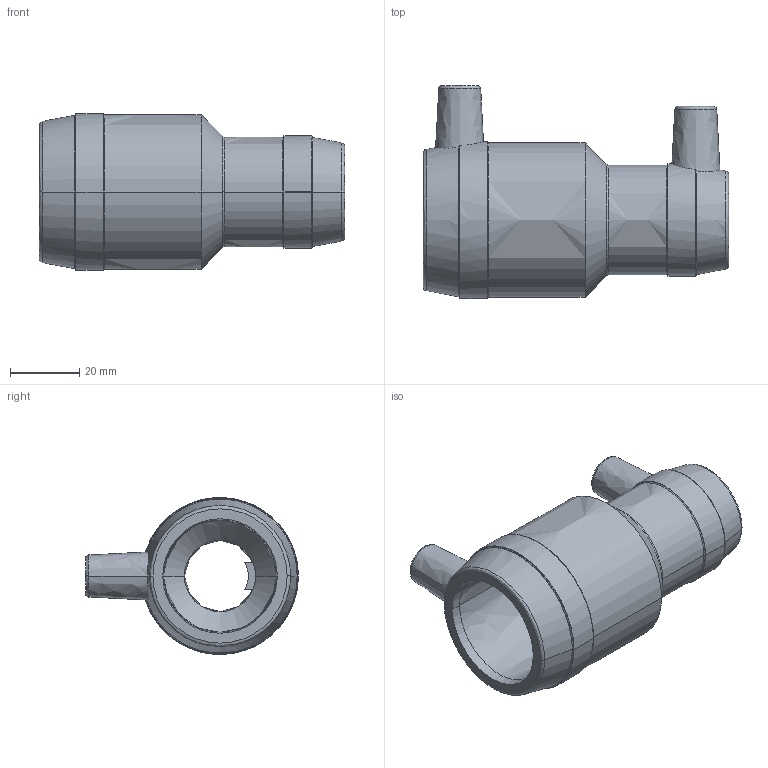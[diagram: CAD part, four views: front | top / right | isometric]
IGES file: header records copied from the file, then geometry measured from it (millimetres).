
Start section:  PTC IGES file: mr_d032-020_01.igs
Global section: file name: mr_d032-020_01.igs; native system: Pro/ENGINEER by Parametric Technology Corporation; preprocessor: 2011490; author: mtunjic; organization: Unknown; date: 20130816.164641; units: millimetre
Bounding box: 88 x 61.35 x 45.2 mm (x, y, z)
Surface area: 20917.9 mm2 (no closed solid volume)
Topology: 0 solids, 0 shells, 183 faces, 912 edges, 912 vertices
Faces by surface type: bspline 183
